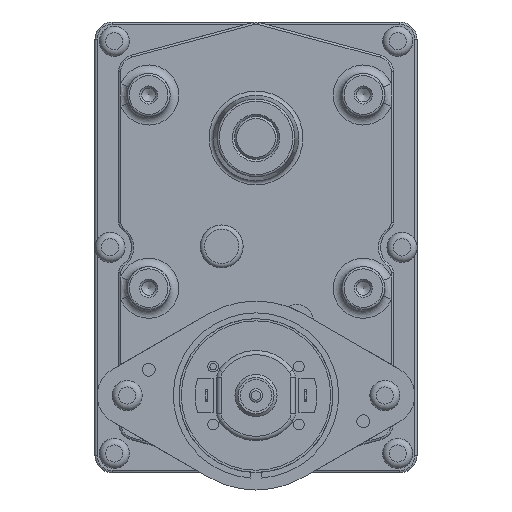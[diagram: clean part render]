
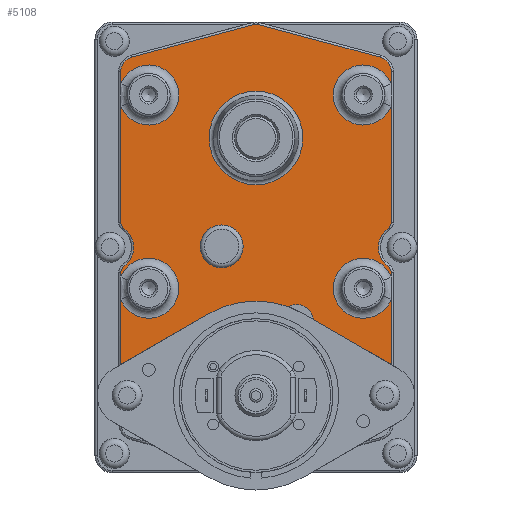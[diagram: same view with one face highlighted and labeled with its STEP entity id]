
A CAD part, front view. The second image highlights one B-rep face of the part: STEP entity #5108.
In plain terms, the highlighted planar face has unit normal (0, -1, 0).
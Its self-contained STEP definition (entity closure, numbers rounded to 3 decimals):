
#101=FACE_BOUND('',#652,.T.);
#102=FACE_BOUND('',#653,.T.);
#189=PLANE('',#5545);
#321=FACE_OUTER_BOUND('',#651,.T.);
#651=EDGE_LOOP('',(#3451,#3452,#3453,#3454,#3455,#3456,#3457,#3458,#3459,
#3460,#3461,#3462,#3463,#3464,#3465,#3466,#3467,#3468,#3469,#3470,#3471,
#3472,#3473,#3474,#3475,#3476,#3477));
#652=EDGE_LOOP('',(#3478));
#653=EDGE_LOOP('',(#3479));
#1036=CIRCLE('',#5541,10.909);
#1039=CIRCLE('',#5546,7.);
#1040=CIRCLE('',#5547,1.5);
#1041=CIRCLE('',#5548,5.5);
#1042=CIRCLE('',#5549,1.5);
#1043=CIRCLE('',#5550,7.);
#1044=CIRCLE('',#5551,3.5);
#1045=CIRCLE('',#5552,1.5);
#1046=CIRCLE('',#5553,3.5);
#1047=CIRCLE('',#5554,7.);
#1048=CIRCLE('',#5555,1.5);
#1049=CIRCLE('',#5556,5.5);
#1050=CIRCLE('',#5557,1.5);
#1051=CIRCLE('',#5558,7.);
#1052=CIRCLE('',#5559,22.);
#1053=CIRCLE('',#5560,4.);
#1054=CIRCLE('',#5561,5.);
#1436=LINE('',#8166,#1780);
#1437=LINE('',#8174,#1781);
#1438=LINE('',#8178,#1782);
#1439=LINE('',#8182,#1783);
#1440=LINE('',#8186,#1784);
#1441=LINE('',#8190,#1785);
#1442=LINE('',#8194,#1786);
#1443=LINE('',#8202,#1787);
#1444=LINE('',#8206,#1788);
#1445=LINE('',#8208,#1789);
#1446=LINE('',#8214,#1790);
#1447=LINE('',#8215,#1791);
#1780=VECTOR('',#6328,10.);
#1781=VECTOR('',#6335,10.);
#1782=VECTOR('',#6338,10.);
#1783=VECTOR('',#6341,10.);
#1784=VECTOR('',#6344,10.);
#1785=VECTOR('',#6347,10.);
#1786=VECTOR('',#6350,10.);
#1787=VECTOR('',#6357,10.);
#1788=VECTOR('',#6360,10.);
#1789=VECTOR('',#6361,10.);
#1790=VECTOR('',#6366,10.);
#1791=VECTOR('',#6367,10.);
#2146=VERTEX_POINT('',#8152);
#2149=VERTEX_POINT('',#8162);
#2150=VERTEX_POINT('',#8163);
#2151=VERTEX_POINT('',#8165);
#2152=VERTEX_POINT('',#8167);
#2153=VERTEX_POINT('',#8169);
#2154=VERTEX_POINT('',#8171);
#2155=VERTEX_POINT('',#8173);
#2156=VERTEX_POINT('',#8175);
#2157=VERTEX_POINT('',#8177);
#2158=VERTEX_POINT('',#8179);
#2159=VERTEX_POINT('',#8181);
#2160=VERTEX_POINT('',#8183);
#2161=VERTEX_POINT('',#8185);
#2162=VERTEX_POINT('',#8187);
#2163=VERTEX_POINT('',#8189);
#2164=VERTEX_POINT('',#8191);
#2165=VERTEX_POINT('',#8193);
#2166=VERTEX_POINT('',#8195);
#2167=VERTEX_POINT('',#8197);
#2168=VERTEX_POINT('',#8199);
#2169=VERTEX_POINT('',#8201);
#2170=VERTEX_POINT('',#8203);
#2171=VERTEX_POINT('',#8205);
#2172=VERTEX_POINT('',#8207);
#2173=VERTEX_POINT('',#8209);
#2174=VERTEX_POINT('',#8211);
#2175=VERTEX_POINT('',#8213);
#2176=VERTEX_POINT('',#8216);
#2652=EDGE_CURVE('',#2146,#2146,#1036,.T.);
#2656=EDGE_CURVE('',#2149,#2150,#1039,.T.);
#2657=EDGE_CURVE('',#2151,#2149,#1436,.T.);
#2658=EDGE_CURVE('',#2152,#2151,#1040,.T.);
#2659=EDGE_CURVE('',#2153,#2152,#1041,.T.);
#2660=EDGE_CURVE('',#2154,#2153,#1042,.T.);
#2661=EDGE_CURVE('',#2155,#2154,#1437,.T.);
#2662=EDGE_CURVE('',#2156,#2155,#1043,.T.);
#2663=EDGE_CURVE('',#2157,#2156,#1438,.T.);
#2664=EDGE_CURVE('',#2158,#2157,#1044,.T.);
#2665=EDGE_CURVE('',#2159,#2158,#1439,.T.);
#2666=EDGE_CURVE('',#2160,#2159,#1045,.T.);
#2667=EDGE_CURVE('',#2161,#2160,#1440,.T.);
#2668=EDGE_CURVE('',#2162,#2161,#1046,.T.);
#2669=EDGE_CURVE('',#2163,#2162,#1441,.T.);
#2670=EDGE_CURVE('',#2164,#2163,#1047,.T.);
#2671=EDGE_CURVE('',#2165,#2164,#1442,.T.);
#2672=EDGE_CURVE('',#2166,#2165,#1048,.T.);
#2673=EDGE_CURVE('',#2167,#2166,#1049,.T.);
#2674=EDGE_CURVE('',#2168,#2167,#1050,.T.);
#2675=EDGE_CURVE('',#2169,#2168,#1443,.T.);
#2676=EDGE_CURVE('',#2170,#2169,#1051,.T.);
#2677=EDGE_CURVE('',#2171,#2170,#1444,.T.);
#2678=EDGE_CURVE('',#2171,#2172,#1445,.T.);
#2679=EDGE_CURVE('',#2172,#2173,#1052,.T.);
#2680=EDGE_CURVE('',#2173,#2174,#1053,.T.);
#2681=EDGE_CURVE('',#2174,#2175,#1446,.T.);
#2682=EDGE_CURVE('',#2150,#2175,#1447,.T.);
#2683=EDGE_CURVE('',#2176,#2176,#1054,.T.);
#3451=ORIENTED_EDGE('',*,*,#2656,.F.);
#3452=ORIENTED_EDGE('',*,*,#2657,.F.);
#3453=ORIENTED_EDGE('',*,*,#2658,.F.);
#3454=ORIENTED_EDGE('',*,*,#2659,.F.);
#3455=ORIENTED_EDGE('',*,*,#2660,.F.);
#3456=ORIENTED_EDGE('',*,*,#2661,.F.);
#3457=ORIENTED_EDGE('',*,*,#2662,.F.);
#3458=ORIENTED_EDGE('',*,*,#2663,.F.);
#3459=ORIENTED_EDGE('',*,*,#2664,.F.);
#3460=ORIENTED_EDGE('',*,*,#2665,.F.);
#3461=ORIENTED_EDGE('',*,*,#2666,.F.);
#3462=ORIENTED_EDGE('',*,*,#2667,.F.);
#3463=ORIENTED_EDGE('',*,*,#2668,.F.);
#3464=ORIENTED_EDGE('',*,*,#2669,.F.);
#3465=ORIENTED_EDGE('',*,*,#2670,.F.);
#3466=ORIENTED_EDGE('',*,*,#2671,.F.);
#3467=ORIENTED_EDGE('',*,*,#2672,.F.);
#3468=ORIENTED_EDGE('',*,*,#2673,.F.);
#3469=ORIENTED_EDGE('',*,*,#2674,.F.);
#3470=ORIENTED_EDGE('',*,*,#2675,.F.);
#3471=ORIENTED_EDGE('',*,*,#2676,.F.);
#3472=ORIENTED_EDGE('',*,*,#2677,.F.);
#3473=ORIENTED_EDGE('',*,*,#2678,.T.);
#3474=ORIENTED_EDGE('',*,*,#2679,.T.);
#3475=ORIENTED_EDGE('',*,*,#2680,.T.);
#3476=ORIENTED_EDGE('',*,*,#2681,.T.);
#3477=ORIENTED_EDGE('',*,*,#2682,.F.);
#3478=ORIENTED_EDGE('',*,*,#2683,.T.);
#3479=ORIENTED_EDGE('',*,*,#2652,.F.);
#5108=ADVANCED_FACE('',(#321,#101,#102),#189,.F.);
#5541=AXIS2_PLACEMENT_3D('',#8154,#6315,#6316);
#5545=AXIS2_PLACEMENT_3D('',#8161,#6324,#6325);
#5546=AXIS2_PLACEMENT_3D('',#8164,#6326,#6327);
#5547=AXIS2_PLACEMENT_3D('',#8168,#6329,#6330);
#5548=AXIS2_PLACEMENT_3D('',#8170,#6331,#6332);
#5549=AXIS2_PLACEMENT_3D('',#8172,#6333,#6334);
#5550=AXIS2_PLACEMENT_3D('',#8176,#6336,#6337);
#5551=AXIS2_PLACEMENT_3D('',#8180,#6339,#6340);
#5552=AXIS2_PLACEMENT_3D('',#8184,#6342,#6343);
#5553=AXIS2_PLACEMENT_3D('',#8188,#6345,#6346);
#5554=AXIS2_PLACEMENT_3D('',#8192,#6348,#6349);
#5555=AXIS2_PLACEMENT_3D('',#8196,#6351,#6352);
#5556=AXIS2_PLACEMENT_3D('',#8198,#6353,#6354);
#5557=AXIS2_PLACEMENT_3D('',#8200,#6355,#6356);
#5558=AXIS2_PLACEMENT_3D('',#8204,#6358,#6359);
#5559=AXIS2_PLACEMENT_3D('',#8210,#6362,#6363);
#5560=AXIS2_PLACEMENT_3D('',#8212,#6364,#6365);
#5561=AXIS2_PLACEMENT_3D('',#8217,#6368,#6369);
#6315=DIRECTION('center_axis',(0.,-1.,0.));
#6316=DIRECTION('ref_axis',(1.,0.,0.));
#6324=DIRECTION('center_axis',(0.,1.,0.));
#6325=DIRECTION('ref_axis',(0.,0.,1.));
#6326=DIRECTION('center_axis',(0.,-1.,0.));
#6327=DIRECTION('ref_axis',(-1.,0.,0.));
#6328=DIRECTION('',(0.,0.,-1.));
#6329=DIRECTION('center_axis',(0.,1.,0.));
#6330=DIRECTION('ref_axis',(0.886,0.,0.463));
#6331=DIRECTION('center_axis',(0.,-1.,0.));
#6332=DIRECTION('ref_axis',(-1.,0.,0.));
#6333=DIRECTION('center_axis',(0.,1.,0.));
#6334=DIRECTION('ref_axis',(0.886,0.,-0.463));
#6335=DIRECTION('',(0.,0.,-1.));
#6336=DIRECTION('center_axis',(0.,-1.,0.));
#6337=DIRECTION('ref_axis',(-1.,0.,0.));
#6338=DIRECTION('',(0.,0.,-1.));
#6339=DIRECTION('center_axis',(0.,1.,0.));
#6340=DIRECTION('ref_axis',(0.793,0.,0.609));
#6341=DIRECTION('',(0.966,0.,-0.259));
#6342=DIRECTION('center_axis',(0.,1.,0.));
#6343=DIRECTION('ref_axis',(0.,0.,1.));
#6344=DIRECTION('',(0.966,0.,0.259));
#6345=DIRECTION('center_axis',(0.,1.,0.));
#6346=DIRECTION('ref_axis',(-0.793,0.,0.609));
#6347=DIRECTION('',(0.,0.,1.));
#6348=DIRECTION('center_axis',(0.,-1.,0.));
#6349=DIRECTION('ref_axis',(-1.,0.,0.));
#6350=DIRECTION('',(0.,0.,1.));
#6351=DIRECTION('center_axis',(0.,1.,0.));
#6352=DIRECTION('ref_axis',(-0.886,0.,-0.463));
#6353=DIRECTION('center_axis',(0.,-1.,0.));
#6354=DIRECTION('ref_axis',(1.,0.,0.));
#6355=DIRECTION('center_axis',(0.,1.,0.));
#6356=DIRECTION('ref_axis',(-0.886,0.,0.463));
#6357=DIRECTION('',(0.,0.,1.));
#6358=DIRECTION('center_axis',(0.,-1.,0.));
#6359=DIRECTION('ref_axis',(-1.,0.,0.));
#6360=DIRECTION('',(0.,0.,1.));
#6361=DIRECTION('',(0.866,0.,0.5));
#6362=DIRECTION('center_axis',(0.,1.,0.));
#6363=DIRECTION('ref_axis',(1.,0.,0.));
#6364=DIRECTION('center_axis',(0.,1.,0.));
#6365=DIRECTION('ref_axis',(-1.,0.,0.));
#6366=DIRECTION('',(0.866,0.,-0.5));
#6367=DIRECTION('',(0.,0.,-1.));
#6368=DIRECTION('center_axis',(0.,1.,0.));
#6369=DIRECTION('ref_axis',(-1.,0.,0.));
#8152=CARTESIAN_POINT('',(0.,-35.,-10.909));
#8154=CARTESIAN_POINT('Origin',(0.,-35.,0.));
#8161=CARTESIAN_POINT('Origin',(0.,-35.,-25.5));
#8162=CARTESIAN_POINT('',(31.5,-35.,-32.402));
#8163=CARTESIAN_POINT('',(31.5,-35.,-37.598));
#8164=CARTESIAN_POINT('Origin',(25.,-35.,-35.));
#8165=CARTESIAN_POINT('',(31.5,-35.,-31.245));
#8166=CARTESIAN_POINT('',(31.5,-35.,-45.963));
#8167=CARTESIAN_POINT('',(30.857,-35.,-30.014));
#8168=CARTESIAN_POINT('Origin',(30.,-35.,-31.245));
#8169=CARTESIAN_POINT('',(30.857,-35.,-20.986));
#8170=CARTESIAN_POINT('Origin',(34.,-35.,-25.5));
#8171=CARTESIAN_POINT('',(31.5,-35.,-19.755));
#8172=CARTESIAN_POINT('Origin',(30.,-35.,-19.755));
#8173=CARTESIAN_POINT('',(31.5,-35.,7.402));
#8174=CARTESIAN_POINT('',(31.5,-35.,-45.963));
#8175=CARTESIAN_POINT('',(31.5,-35.,12.598));
#8176=CARTESIAN_POINT('Origin',(25.,-35.,10.));
#8177=CARTESIAN_POINT('',(31.5,-35.,15.427));
#8178=CARTESIAN_POINT('',(31.5,-35.,-45.963));
#8179=CARTESIAN_POINT('',(28.906,-35.,18.808));
#8180=CARTESIAN_POINT('Origin',(28.,-35.,15.427));
#8181=CARTESIAN_POINT('',(0.388,-35.,26.449));
#8182=CARTESIAN_POINT('',(20.96,-35.,20.937));
#8183=CARTESIAN_POINT('',(-0.388,-35.,26.449));
#8184=CARTESIAN_POINT('Origin',(0.,-35.,25.));
#8185=CARTESIAN_POINT('',(-28.906,-35.,18.808));
#8186=CARTESIAN_POINT('',(-6.701,-35.,24.757));
#8187=CARTESIAN_POINT('',(-31.5,-35.,15.427));
#8188=CARTESIAN_POINT('Origin',(-28.,-35.,15.427));
#8189=CARTESIAN_POINT('',(-31.5,-35.,12.598));
#8190=CARTESIAN_POINT('',(-31.5,-35.,-5.037));
#8191=CARTESIAN_POINT('',(-31.5,-35.,7.402));
#8192=CARTESIAN_POINT('Origin',(-25.,-35.,10.));
#8193=CARTESIAN_POINT('',(-31.5,-35.,-19.755));
#8194=CARTESIAN_POINT('',(-31.5,-35.,-5.037));
#8195=CARTESIAN_POINT('',(-30.857,-35.,-20.986));
#8196=CARTESIAN_POINT('Origin',(-30.,-35.,-19.755));
#8197=CARTESIAN_POINT('',(-30.857,-35.,-30.014));
#8198=CARTESIAN_POINT('Origin',(-34.,-35.,-25.5));
#8199=CARTESIAN_POINT('',(-31.5,-35.,-31.245));
#8200=CARTESIAN_POINT('Origin',(-30.,-35.,-31.245));
#8201=CARTESIAN_POINT('',(-31.5,-35.,-32.402));
#8202=CARTESIAN_POINT('',(-31.5,-35.,-5.037));
#8203=CARTESIAN_POINT('',(-31.5,-35.,-37.598));
#8204=CARTESIAN_POINT('Origin',(-25.,-35.,-35.));
#8205=CARTESIAN_POINT('',(-31.5,-35.,-52.783));
#8206=CARTESIAN_POINT('',(-31.5,-35.,-5.037));
#8207=CARTESIAN_POINT('',(-11.,-35.,-40.947));
#8208=CARTESIAN_POINT('',(-3.531,-35.,-36.635));
#8209=CARTESIAN_POINT('',(7.452,-35.,-39.301));
#8210=CARTESIAN_POINT('Origin',(0.,-35.,-60.));
#8211=CARTESIAN_POINT('',(13.372,-35.,-42.317));
#8212=CARTESIAN_POINT('Origin',(9.401,-35.,-42.794));
#8213=CARTESIAN_POINT('',(31.5,-35.,-52.783));
#8214=CARTESIAN_POINT('',(14.781,-35.,-43.13));
#8215=CARTESIAN_POINT('',(31.5,-35.,-45.963));
#8216=CARTESIAN_POINT('',(-3.,-35.,-25.264));
#8217=CARTESIAN_POINT('Origin',(-8.,-35.,-25.264));
